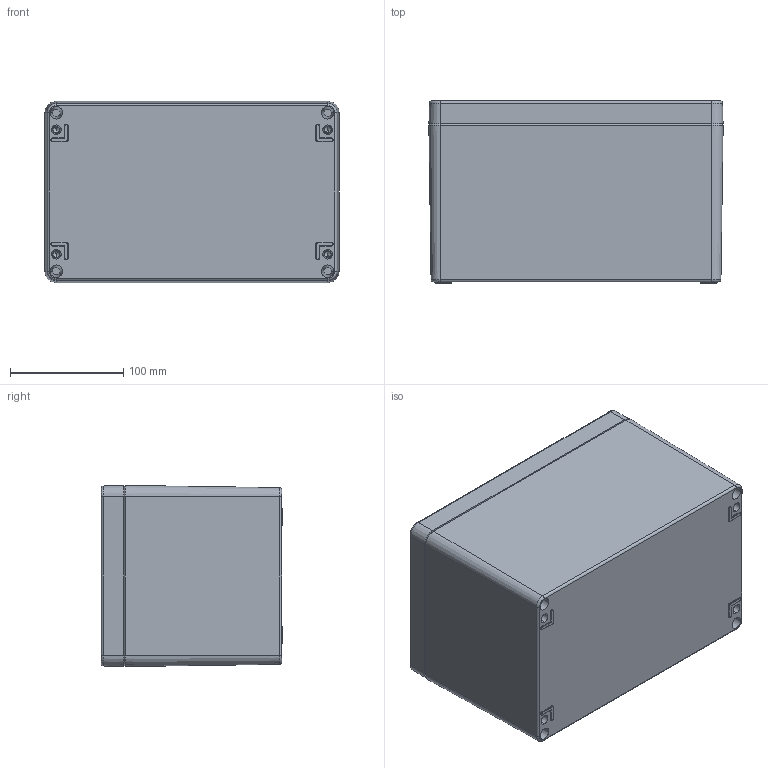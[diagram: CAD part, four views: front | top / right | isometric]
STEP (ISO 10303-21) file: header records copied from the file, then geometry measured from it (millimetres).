
FILE_DESCRIPTION (( 'STEP AP203' ), '1' );
FILE_NAME ('BB073.STEP', '2024-12-28T13:24:35', ( '' ), ( '' ), 'SwSTEP 2.0', 'SolidWorks 2019', '' );
FILE_SCHEMA (( 'CONFIG_CONTROL_DESIGN' ));
Length unit declared in the file: millimetre
Products named in the file (3): Lid 260X160X91; final_approved_base_260x160x161; BB073
Assembly tree (2 placements, depth 2):
  BB073
    final_approved_base_260x160x161
    Lid 260X160X91
Bounding box: 260.15 x 160.72 x 160.15 mm (x, y, z)
Volume: 1129031.9 mm3; surface area: 446109.2 mm2
Topology: 2 solids, 2 shells, 950 faces, 2333 edges, 1447 vertices
Faces by surface type: plane 423, cone 223, cylinder 197, bspline 63, torus 44
Entity records: 31525 total; most frequent: CARTESIAN_POINT 8921, DIRECTION 4651, ORIENTED_EDGE 4608, EDGE_CURVE 2304, AXIS2_PLACEMENT_3D 1607, VERTEX_POINT 1444, VECTOR 1437, LINE 1437
